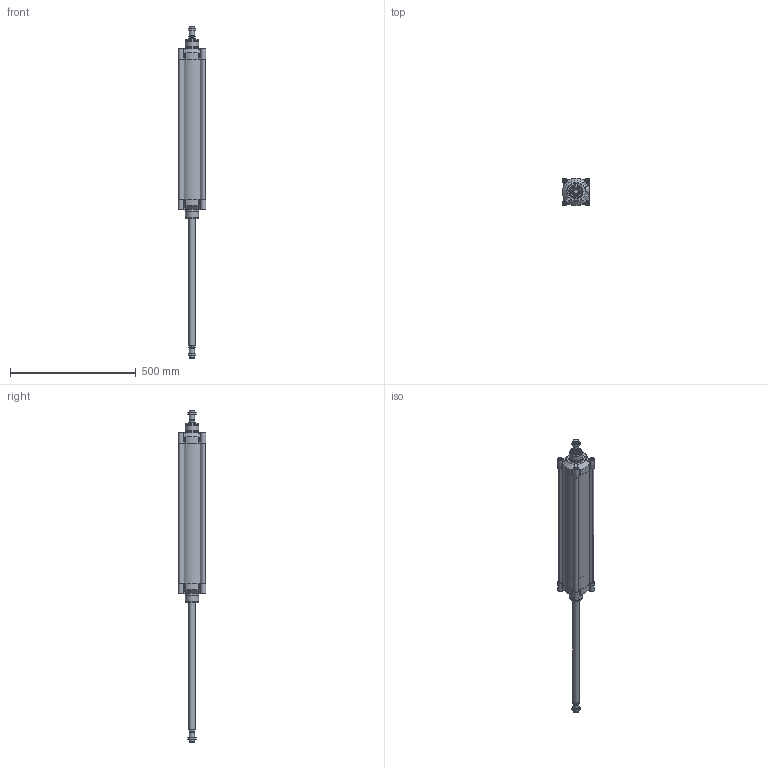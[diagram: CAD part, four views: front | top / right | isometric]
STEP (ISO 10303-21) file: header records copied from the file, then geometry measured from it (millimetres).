
FILE_DESCRIPTION(/* description */ ('Unknown'),/* implementation_level */ '2;1');
FILE_NAME(/* name */ 'HBF 100_500',/* time_stamp */ '2024-08-07T14:54:45+02:00',/* author */ ('Unknown'),/* organization */ ('Unknown'),/* preprocessor_version */ 'ST-DEVELOPER v16.7',/* originating_system */ 'Solid Edge',/* authorisation */ 'Unknown');
FILE_SCHEMA (('AUTOMOTIVE_DESIGN {1 0 10303 214 3 1 1}'));
Length unit declared in the file: millimetre
Products named in the file (6): HBF 100_500; Kit; Profilrohr 100_500; Kolbenstange_1_100_500; Mutter; Kolbenstange_2_100_500
Assembly tree (7 placements, depth 2):
  HBF 100_500
    Kit  x2
    Profilrohr 100_500
    Kolbenstange_1_100_500
    Mutter  x2
    Kolbenstange_2_100_500
Bounding box: 110 x 110 x 1320 mm (x, y, z)
Volume: 2700582.5 mm3; surface area: 906235.7 mm2
Topology: 7 solids, 23 shells, 1381 faces, 3383 edges, 2088 vertices
Faces by surface type: cylinder 475, plane 426, cone 168, torus 112, sphere 108, bspline 92
Full cylindrical faces by diameter (mm): 8.376 x16, 10 x8, 10.3 x8, 12 x2, 16 x8, 16.3 x8, 17 x2, 17.5 x2, 18.376 x2, 18.62 x2, 18.631 x2, 20 x2, 24.5 x2, 25 x6, 25.6 x2, 25.8 x2, 25.962 x2, 30 x2, 35 x4, 52 x2, 55 x2, 100 x3
Entity records: 29890 total; most frequent: CARTESIAN_POINT 7254, ORIENTED_EDGE 3826, DIRECTION 3675, EDGE_CURVE 1913, AXIS2_PLACEMENT_3D 1481, VERTEX_POINT 1233, FACE_BOUND 908, EDGE_LOOP 904
